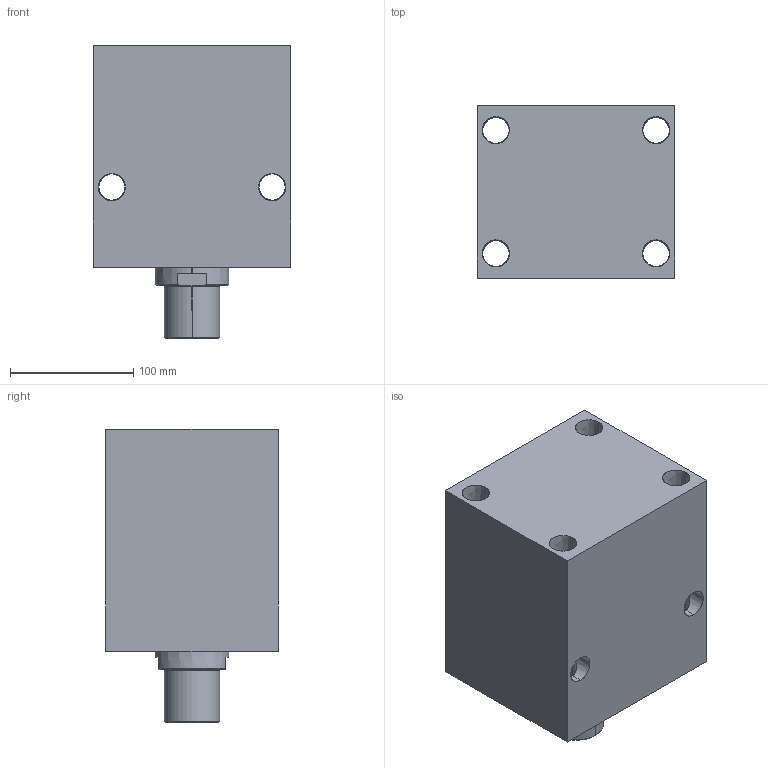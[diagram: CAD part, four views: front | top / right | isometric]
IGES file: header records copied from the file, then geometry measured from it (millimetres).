
Start section: SolidWorks IGES file using analytic representation for surfaces
Global section: file name: D:\karuppas\Clasp\3D model\Block cylinder B01C-Male thread - Copy\B01C-910M\Block cylinder B01C-910M.IGS; native system: SolidWorks 2017; preprocessor: SolidWorks 2017; author: pc; date: 220709.234956; units: millimetre
Bounding box: 160 x 140 x 238 mm (x, y, z)
Surface area: 273746.3 mm2 (no closed solid volume)
Topology: 0 solids, 0 shells, 356 faces, 5594 edges, 5590 vertices
Faces by surface type: bspline 302, revolution 54
